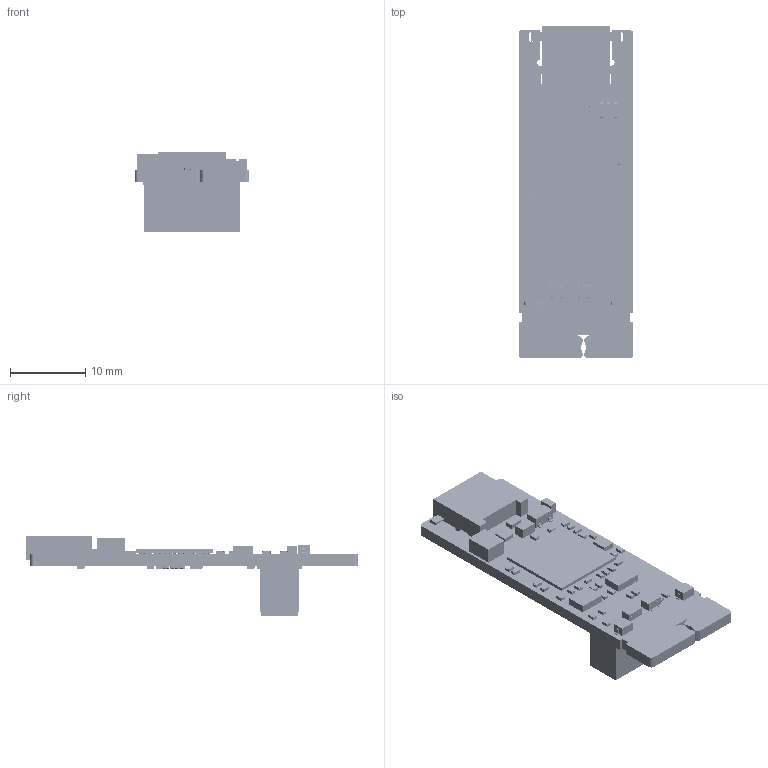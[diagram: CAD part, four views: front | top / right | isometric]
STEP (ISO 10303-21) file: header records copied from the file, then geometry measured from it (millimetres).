
FILE_DESCRIPTION(('Open CASCADE Model'),'2;1');
FILE_NAME('Open CASCADE Shape Model','2021-06-09T15:33:18',('Author'),( 'Open CASCADE'),'Open CASCADE STEP processor 6.8','Open CASCADE 6.8' ,'Unknown');
FILE_SCHEMA(('AUTOMOTIVE_DESIGN { 1 0 10303 214 1 1 1 1 }'));
Length unit declared in the file: millimetre
Products named in the file (154): PCB; Board; Open CASCADE STEP translator 6.8 1.1.1; Open CASCADE STEP translator 6.8 1.1.1.1; R26; R0402; 6167572656; Extruded; R40; R39; R38; R27; R25; C7; C0402; U1; 6041769104; Body; bigPin; 6166831616; C10; C3; C0805_2012D; 6167573456; C12; C2; 6166825536; C30; C29; C27; C28; C31; C17; C18; C5; C4; C15; C26; C16; C24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
Assembly tree (477 placements, depth 4):
  PCB
    Board
      Open CASCADE STEP translator 6.8 1.1.1
        Open CASCADE STEP translator 6.8 1.1.1.1
    R26
      R0402
      6167572656
        Extruded
    R40
      R0402
      6167572656
        Extruded
    R39
      R0402
      6167572656
        Extruded
    R38
      R0402
      6167572656
        Extruded
    R27
      R0402
      6167572656
        Extruded
    R25
      R0402
      6167572656
        Extruded
    C7
      C0402
      6167572656
        Extruded
    U1
      6041769104
        Body
        bigPin  x2
      6166831616
        Extruded
    C10
      C0402
      6167572656
        Extruded
    C3
      C0805_2012D
      6167573456
        Extruded
    C12
      C0402
      6167572656
        Extruded
    C2
      C0402
      6166825536
        Extruded
    C30
      C0402
      6167572656
        Extruded
    C29
      C0402
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Bounding box: 15.24 x 44 x 10.51 mm (x, y, z)
Volume: 1906.3 mm3; surface area: 4091.2 mm2
Topology: 429 solids, 435 shells, 12813 faces, 29612 edges, 16327 vertices
Faces by surface type: cylinder 4364, plane 3752, bspline 2358, sphere 1844, torus 279, revolution 216
Full cylindrical faces by diameter (mm): 0.3 x1, 0.4 x2, 0.5 x1
Entity records: 55086 total; most frequent: CARTESIAN_POINT 11165, DIRECTION 7552, ORIENTED_EDGE 6924, EDGE_CURVE 3463, LINE 2690, VECTOR 2690, AXIS2_PLACEMENT_3D 2427, VERTEX_POINT 2174
